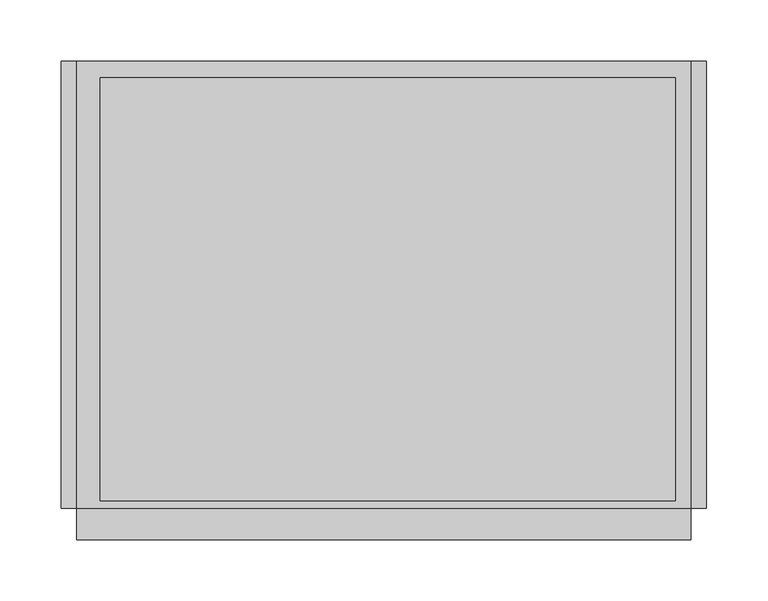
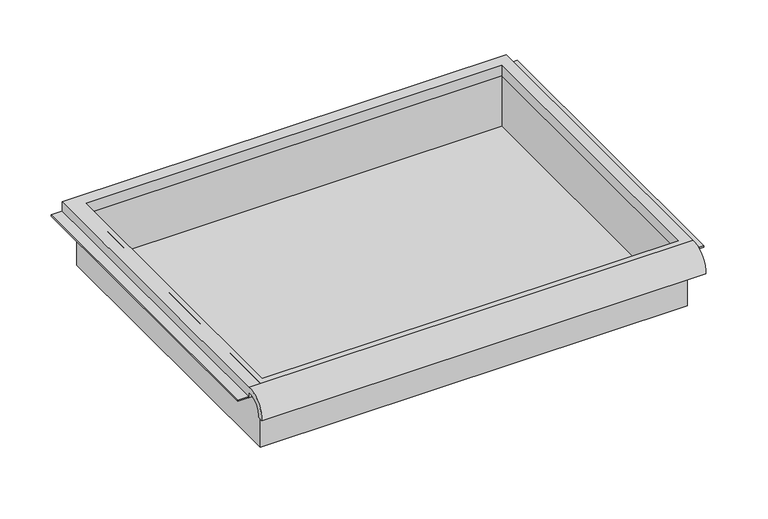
"""IFC4 building model written with IfcOpenShell, lengths in millimetres: furniture geometry."""

from ifc_helpers import new_model, si_unit, frame, origin, place, context, project, spatial, polyline, circle_curve, faceted_brep, source, transform, mapped, element, save
from ifc_brep_helpers import plane_surface, cylinder_surface, revolved_surface, advanced_brep


def furniture_b57faadb(model_context):
    return source(origin(), model_context, "Body", "SolidModel", [
        advanced_brep(
        [(263.7474999, -195.297482, 891.3849518), (263.7474999, -188.9125, 891.3849518), (263.7474999, -169.8625, 909.646425), (263.7474999, -169.8625, 903.2964246), (263.7474999, 195.2625, 903.2964246), (263.7474999, 195.2625, 915.996425), (263.7474999, -169.8625, 915.996425), (-237.9025001, -195.297482, 891.3849518), (-237.9025001, -169.8625, 915.996425), (-237.9025001, 195.2625, 915.996425), (-237.9025001, 195.2625, 903.2964246), (-237.9025001, -169.8625, 903.2964246), (-237.9025001, -169.8625, 909.646425), (-237.9025001, -188.9125, 891.3849518), (251.0474878, 181.9275, 903.2964246), (-218.8095642, 181.9275, 903.2964246), (-218.8095642, -163.5125, 903.2964246), (251.0474878, -163.5125, 903.2964246), (-218.8095642, 181.9275, 915.996425), (251.0474878, 181.9275, 915.996425), (251.0474878, -163.5125, 915.996425), (-218.8095642, -163.5125, 915.996425)],
        [
            (0, 1),
            (1, 2, circle_curve(frame((263.7474999, -172.3404634, 893.1643622), z_axis=(-1.0, 0.0, 0.0), x_axis=(0.0, 1.0, 0.0)), 16.6672942)),
            (2, 3),
            (3, 4),
            (4, 5),
            (5, 6),
            (6, 0, circle_curve(frame((263.7474999, -172.4601678, 893.2322522), z_axis=(1.0, 0.0, 0.0), x_axis=(0.0, 1.0, 0.0)), 22.9119061)),
            (7, 8, circle_curve(frame((-237.9025001, -172.4601678, 893.2322522), z_axis=(-1.0, 0.0, 0.0), x_axis=(0.0, 1.0, 0.0)), 22.9119061)),
            (8, 9),
            (9, 10),
            (10, 11),
            (11, 12),
            (12, 13, circle_curve(frame((-237.9025001, -172.3404634, 893.1643622), z_axis=(1.0, 0.0, 0.0), x_axis=(0.0, 1.0, 0.0)), 16.6672942)),
            (13, 7),
            (0, 7),
            (13, 1),
            (12, 2),
            (11, 3),
            (10, 4),
            (14, 15),
            (15, 16),
            (16, 17),
            (17, 14),
            (9, 5),
            (8, 6),
            (18, 19),
            (19, 20),
            (20, 21),
            (21, 18),
            (14, 19),
            (18, 15),
            (21, 16),
            (20, 17),
        ],
        [
            plane_surface(frame((263.7474999, -195.297482, 891.3849518), z_axis=(1.0, 0.0, 0.0), x_axis=(0.0, 1.0, 0.0))),
            plane_surface(frame((-237.9025001, -195.297482, 891.3849518), z_axis=(-1.0, 0.0, 0.0), x_axis=(0.0, -1.0, 0.0))),
            plane_surface(frame((263.7474999, -195.297482, 891.3849518), z_axis=(0.0, 0.0, -1.0), x_axis=(-1.0, 0.0, 0.0))),
            revolved_surface(polyline([(-237.9025001, -155.67316920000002, 893.1643622), (263.7474999, -155.67316920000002, 893.1643622)]), (-237.9025001, -172.3404634, 893.1643622), (-1.0, 0.0, 0.0)),
            plane_surface(frame((263.7474999, -169.8625, 909.646425), z_axis=(0.0, -1.0, 0.0), x_axis=(-1.0, 0.0, 0.0))),
            plane_surface(frame((263.7474999, -169.8625, 903.2964246), z_axis=(0.0, 0.0, -1.0), x_axis=(-1.0, 0.0, 0.0))),
            plane_surface(frame((263.7474999, 195.2625, 903.2964246), z_axis=(0.0, 1.0, 0.0), x_axis=(-1.0, 0.0, 0.0))),
            plane_surface(frame((263.7474999, 195.2625, 915.996425), z_axis=(0.0, 0.0, 1.0), x_axis=(-1.0, 0.0, 0.0))),
            cylinder_surface(frame((-237.9025001, -172.4601678, 893.2322522), z_axis=(1.0, 0.0, 0.0), x_axis=(0.0, 1.0, 0.0)), 22.9119061),
            plane_surface(frame((251.0474878, 181.9275, 915.996425), z_axis=(0.0, -1.0, 0.0), x_axis=(0.0, 0.0, -1.0))),
            plane_surface(frame((-218.8095642, 181.9275, 915.996425), z_axis=(1.0, 0.0, 0.0), x_axis=(0.0, 0.0, -1.0))),
            plane_surface(frame((-218.8095642, -163.5125, 915.996425), z_axis=(0.0, 1.0, 0.0), x_axis=(0.0, 0.0, -1.0))),
            plane_surface(frame((251.0474878, -163.5125, 915.996425), z_axis=(-1.0, 0.0, 0.0), x_axis=(0.0, 0.0, -1.0))),
        ],
        [
            (0, [[1, 2, 3, 4, 5, 6, 7]]),
            (1, [[8, 9, 10, 11, 12, 13, 14]]),
            (2, [[-1, 15, -14, 16]]),
            (3, [[-2, -16, -13, 17]]),
            (4, [[-3, -17, -12, 18]]),
            (5, [[-4, -18, -11, 19], [20, 21, 22, 23]]),
            (6, [[-5, -19, -10, 24]]),
            (7, [[-6, -24, -9, 25], [26, 27, 28, 29]]),
            (8, [[-7, -25, -8, -15]]),
            (9, [[30, -26, 31, -20]]),
            (10, [[-31, -29, 32, -21]]),
            (11, [[-32, -28, 33, -22]]),
            (12, [[-30, -23, -33, -27]]),
        ],
    ),
        faceted_brep([(-225.2025001, -169.8625, 839.796425), (257.3974878, -169.8625, 839.796425), (257.3974878, -169.8625, 915.996425), (-225.2025001, -169.8625, 915.996425), (-225.2025001, 188.9125, 839.796425), (-225.2025001, 188.9125, 915.996425), (257.3974878, 188.9125, 915.996425), (257.3974878, 188.9125, 839.796425), (-218.8095642, 181.9275, 915.996425), (251.0474878, 181.9275, 915.996425), (251.0474878, -163.5125, 915.996425), (-218.8095642, -163.5125, 915.996425), (251.0474878, 181.9275, 842.971425), (-218.8095642, 181.9275, 842.971425), (-218.8095642, -163.5125, 842.971425), (251.0474878, -163.5125, 842.971425)], [[[0, 1, 2, 3]], [[4, 5, 6, 7]], [[1, 0, 4, 7]], [[2, 1, 7, 6]], [[3, 2, 6, 5], [8, 9, 10, 11]], [[0, 3, 5, 4]], [[12, 13, 14, 15]], [[13, 12, 9, 8]], [[14, 13, 8, 11]], [[15, 14, 11, 10]], [[12, 15, 10, 9]]]),
        faceted_brep([(-250.6025001, 195.2625, 903.2964246), (-250.6025001, 195.2625, 904.8839246), (-231.5525001, 195.2625, 904.8839246), (-231.5525001, 195.2625, 903.2964246), (-250.6025001, -169.8625, 903.2964246), (-231.5525001, -169.8625, 903.2964246), (-231.5525001, -169.8625, 904.8839246), (-250.6025001, -169.8625, 904.8839246)], [[[0, 1, 2, 3]], [[4, 5, 6, 7]], [[1, 0, 4, 7]], [[2, 1, 7, 6]], [[3, 2, 6, 5]], [[0, 3, 5, 4]]]),
        faceted_brep([(276.4474999, 195.2625, 903.2964246), (263.7474999, 195.2625, 903.2964246), (263.7474999, 195.2625, 904.8839246), (276.4474999, 195.2625, 904.8839246), (276.4474999, -169.8625, 903.2964246), (276.4474999, -169.8625, 904.8839246), (263.7474999, -169.8625, 904.8839246), (263.7474999, -169.8625, 903.2964246)], [[[0, 1, 2, 3]], [[4, 5, 6, 7]], [[1, 0, 4, 7]], [[2, 1, 7, 6]], [[3, 2, 6, 5]], [[0, 3, 5, 4]]]),
    ])


if __name__ == "__main__":
    model = new_model("IFC4")
    model_context = context("Model", 3, world=origin())
    ifc_project = project(units=[si_unit("LENGTHUNIT", "METRE", prefix="MILLI")], contexts=[model_context])
    site = spatial("IfcSite", under=ifc_project)
    building = spatial("IfcBuilding", under=site)
    placement = place(None, origin())
    furniture_shape = furniture_b57faadb(model_context)
    element("IfcFurniture", 1, ObjectType="HermanMiller_Carts_CT501_Drawer : 3\"H x 15\"D x 20\"W", at=placement, inside=building, context=model_context, shape_type="MappedRepresentation", body=[
        mapped(furniture_shape, transform((0.0, 0.0, 0.0), x_axis=(1.0, 0.0, 0.0), y_axis=(0.0, 1.0, 0.0), z_axis=(0.0, 0.0, 1.0))),
    ])
    save(model, "model.ifc")
